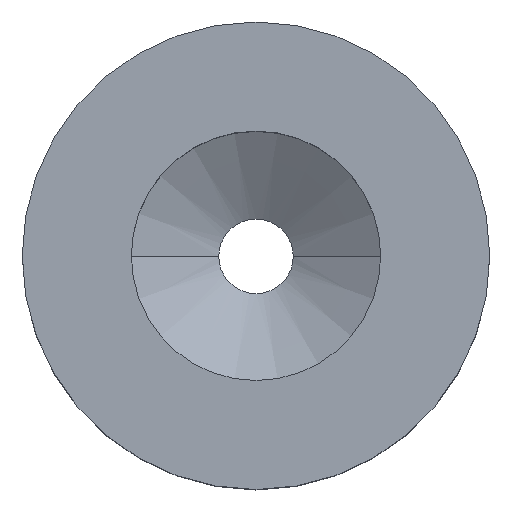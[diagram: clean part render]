
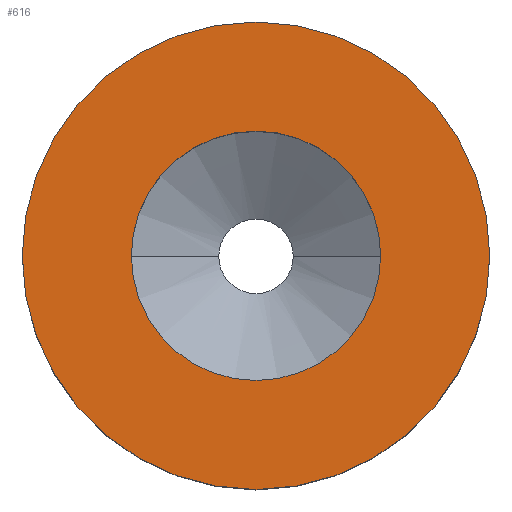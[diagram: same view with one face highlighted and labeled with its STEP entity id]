
A CAD part, top view. The second image highlights one B-rep face of the part: STEP entity #616.
In plain terms, the highlighted planar face has unit normal (0, 0, 1).
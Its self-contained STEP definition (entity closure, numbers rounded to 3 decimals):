
#4 = EDGE_CURVE ( 'NONE', #187, #722, #554, .T. ) ;
#13 = CIRCLE ( 'NONE', #151, 7.5 ) ;
#43 = EDGE_CURVE ( 'NONE', #105, #693, #13, .T. ) ;
#59 = DIRECTION ( 'NONE',  ( 0., 0., 1. ) ) ;
#72 = PLANE ( 'NONE',  #706 ) ;
#102 = FACE_BOUND ( 'NONE', #769, .T. ) ;
#105 = VERTEX_POINT ( 'NONE', #244 ) ;
#136 = ORIENTED_EDGE ( 'NONE', *, *, #345, .T. ) ;
#151 = AXIS2_PLACEMENT_3D ( 'NONE', #774, #593, #596 ) ;
#159 = CARTESIAN_POINT ( 'NONE',  ( 0., 0., 0. ) ) ;
#161 = CARTESIAN_POINT ( 'NONE',  ( -4., 0., 0. ) ) ;
#168 = AXIS2_PLACEMENT_3D ( 'NONE', #159, #753, #670 ) ;
#180 = CIRCLE ( 'NONE', #765, 4. ) ;
#187 = VERTEX_POINT ( 'NONE', #161 ) ;
#196 = EDGE_CURVE ( 'NONE', #722, #187, #180, .T. ) ;
#200 = ORIENTED_EDGE ( 'NONE', *, *, #4, .F. ) ;
#216 = CIRCLE ( 'NONE', #386, 7.5 ) ;
#227 = ORIENTED_EDGE ( 'NONE', *, *, #43, .T. ) ;
#228 = DIRECTION ( 'NONE',  ( -1., 0., 0. ) ) ;
#244 = CARTESIAN_POINT ( 'NONE',  ( -7.5, 0., 0. ) ) ;
#345 = EDGE_CURVE ( 'NONE', #693, #105, #216, .T. ) ;
#351 = CARTESIAN_POINT ( 'NONE',  ( 0., 0., 0. ) ) ;
#372 = DIRECTION ( 'NONE',  ( 1., 0., 0. ) ) ;
#386 = AXIS2_PLACEMENT_3D ( 'NONE', #417, #59, #372 ) ;
#387 = DIRECTION ( 'NONE',  ( 0., 0., -1. ) ) ;
#417 = CARTESIAN_POINT ( 'NONE',  ( 0., 0., 0. ) ) ;
#456 = CARTESIAN_POINT ( 'NONE',  ( 7.5, 0., 0. ) ) ;
#461 = EDGE_LOOP ( 'NONE', ( #136, #227 ) ) ;
#486 = ORIENTED_EDGE ( 'NONE', *, *, #196, .F. ) ;
#518 = CARTESIAN_POINT ( 'NONE',  ( 0., 0., 0. ) ) ;
#554 = CIRCLE ( 'NONE', #168, 4. ) ;
#590 = CARTESIAN_POINT ( 'NONE',  ( 4., 0., 0. ) ) ;
#593 = DIRECTION ( 'NONE',  ( 0., 0., 1. ) ) ;
#596 = DIRECTION ( 'NONE',  ( 1., 0., 0. ) ) ;
#607 = DIRECTION ( 'NONE',  ( 1., 0., 0. ) ) ;
#616 = ADVANCED_FACE ( 'NONE', ( #102, #752 ), #72, .F. ) ;
#670 = DIRECTION ( 'NONE',  ( 1., 0., 0. ) ) ;
#693 = VERTEX_POINT ( 'NONE', #456 ) ;
#706 = AXIS2_PLACEMENT_3D ( 'NONE', #351, #387, #228 ) ;
#712 = DIRECTION ( 'NONE',  ( 0., 0., 1. ) ) ;
#722 = VERTEX_POINT ( 'NONE', #590 ) ;
#752 = FACE_OUTER_BOUND ( 'NONE', #461, .T. ) ;
#753 = DIRECTION ( 'NONE',  ( 0., 0., 1. ) ) ;
#765 = AXIS2_PLACEMENT_3D ( 'NONE', #518, #712, #607 ) ;
#769 = EDGE_LOOP ( 'NONE', ( #486, #200 ) ) ;
#774 = CARTESIAN_POINT ( 'NONE',  ( 0., 0., 0. ) ) ;
